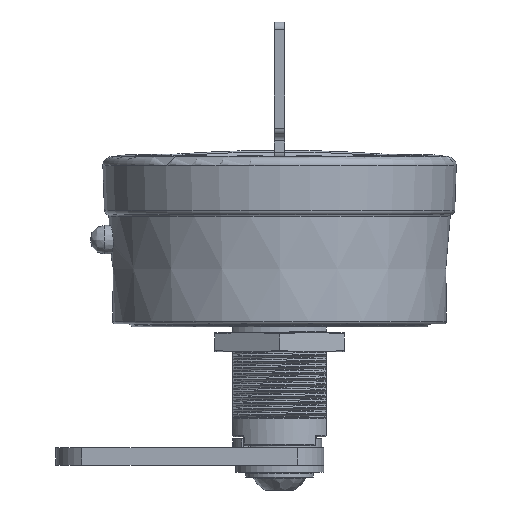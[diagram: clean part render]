
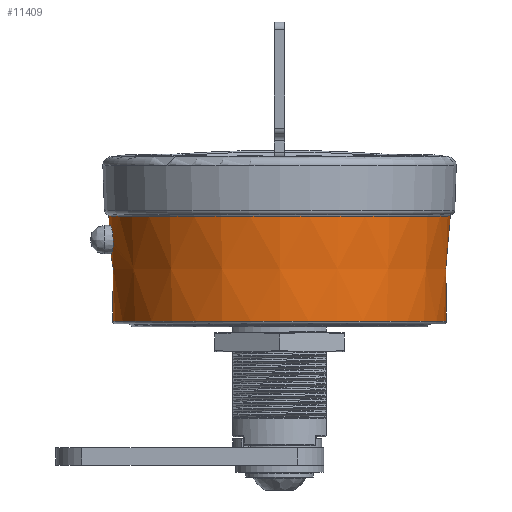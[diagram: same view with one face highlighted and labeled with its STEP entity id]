
A CAD part, front view. The second image highlights one B-rep face of the part: STEP entity #11409.
In plain terms, the highlighted conical face has half-angle 2 degrees and reference radius 28.294 mm.
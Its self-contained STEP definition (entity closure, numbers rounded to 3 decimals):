
#4883=CONICAL_SURFACE('',#37290,28.294,2.);
#5993=B_SPLINE_CURVE_WITH_KNOTS('',3,(#73818,#73819,#73820,#73821,#73822,
#73823,#73824,#73825,#73826,#73827,#73828,#73829,#73830,#73831,#73832,#73833,
#73834,#73835),.UNSPECIFIED.,.T.,.F.,(2,2,2,2,2,2,2,2,2,2,2),(-0.125,0.,
0.125,0.25,0.375,0.5,0.625,0.75,0.875,1.,1.125),.UNSPECIFIED.);
#11409=ADVANCED_FACE('',(#13243,#13244,#13245),#4883,.T.);
#13243=FACE_BOUND('',#14706,.T.);
#13244=FACE_BOUND('',#14707,.T.);
#13245=FACE_BOUND('',#14708,.T.);
#14706=EDGE_LOOP('',(#21608));
#14707=EDGE_LOOP('',(#21609));
#14708=EDGE_LOOP('',(#21610));
#21608=ORIENTED_EDGE('',*,*,#31882,.T.);
#21609=ORIENTED_EDGE('',*,*,#31883,.T.);
#21610=ORIENTED_EDGE('',*,*,#31800,.T.);
#27672=VERTEX_POINT('',#73836);
#27754=VERTEX_POINT('',#75025);
#27755=VERTEX_POINT('',#75027);
#31800=EDGE_CURVE('',#27672,#27672,#5993,.T.);
#31882=EDGE_CURVE('',#27754,#27754,#34664,.T.);
#31883=EDGE_CURVE('',#27755,#27755,#34665,.T.);
#34664=CIRCLE('',#37288,28.349);
#34665=CIRCLE('',#37289,28.97);
#37288=AXIS2_PLACEMENT_3D('',#75024,#43534,#43535);
#37289=AXIS2_PLACEMENT_3D('',#75026,#43536,#43537);
#37290=AXIS2_PLACEMENT_3D('',#75028,#43538,#43539);
#43534=DIRECTION('',(0.,0.,-1.));
#43535=DIRECTION('',(0.,-1.,0.));
#43536=DIRECTION('',(0.,0.,1.));
#43537=DIRECTION('',(0.,1.,0.));
#43538=DIRECTION('',(0.,0.,-1.));
#43539=DIRECTION('',(0.,-1.,0.));
#73818=CARTESIAN_POINT('',(5.237,3.967,-15.305));
#73819=CARTESIAN_POINT('',(5.253,4.907,-16.24));
#73820=CARTESIAN_POINT('',(5.291,5.56,-16.503));
#73821=CARTESIAN_POINT('',(5.439,6.861,-16.497));
#73822=CARTESIAN_POINT('',(5.548,7.507,-16.228));
#73823=CARTESIAN_POINT('',(5.742,8.424,-15.313));
#73824=CARTESIAN_POINT('',(5.823,8.698,-14.669));
#73825=CARTESIAN_POINT('',(5.871,8.702,-13.346));
#73826=CARTESIAN_POINT('',(5.836,8.43,-12.695));
#73827=CARTESIAN_POINT('',(5.706,7.509,-11.772));
#73828=CARTESIAN_POINT('',(5.615,6.86,-11.502));
#73829=CARTESIAN_POINT('',(5.467,5.558,-11.498));
#73830=CARTESIAN_POINT('',(5.409,4.908,-11.76));
#73831=CARTESIAN_POINT('',(5.328,3.969,-12.692));
#73832=CARTESIAN_POINT('',(5.301,3.701,-13.342));
#73833=CARTESIAN_POINT('',(5.255,3.699,-14.652));
#73834=CARTESIAN_POINT('',(5.237,3.967,-15.305));
#73835=CARTESIAN_POINT('',(5.253,4.907,-16.24));
#73836=CARTESIAN_POINT('',(5.245,4.437,-15.772));
#75024=CARTESIAN_POINT('',(34.1,2.95,-0.183));
#75025=CARTESIAN_POINT('',(34.1,-25.399,-0.183));
#75026=CARTESIAN_POINT('',(34.1,2.95,-17.962));
#75027=CARTESIAN_POINT('',(34.1,31.92,-17.962));
#75028=CARTESIAN_POINT('',(34.1,2.95,1.399));
